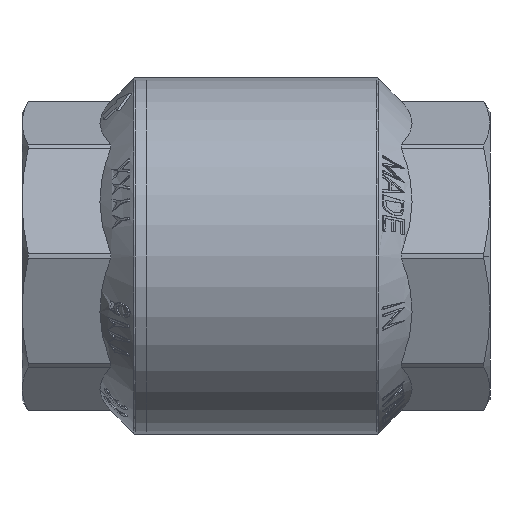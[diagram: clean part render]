
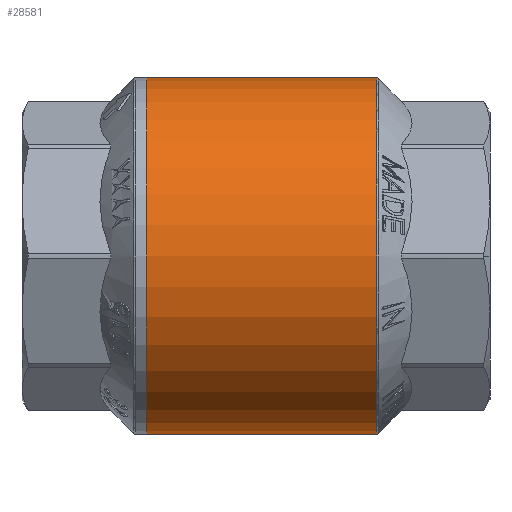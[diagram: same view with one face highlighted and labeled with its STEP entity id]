
A CAD part, front view. The second image highlights one B-rep face of the part: STEP entity #28581.
In plain terms, the highlighted cylindrical face has radius 41.5 mm (diameter 83 mm), a partial arc.
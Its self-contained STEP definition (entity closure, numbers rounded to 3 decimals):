
#33 = VECTOR ( 'NONE', #3463, 1000. ) ;
#69 = VECTOR ( 'NONE', #3678, 1000. ) ;
#2857 = CARTESIAN_POINT ( 'NONE',  ( -0.354, 0., -41.5 ) ) ;
#2875 = CARTESIAN_POINT ( 'NONE',  ( -0.354, 0., 41.5 ) ) ;
#2889 = CARTESIAN_POINT ( 'NONE',  ( -54., 0., -41.5 ) ) ;
#2895 = CARTESIAN_POINT ( 'NONE',  ( -54., 0., 41.5 ) ) ;
#3462 = CARTESIAN_POINT ( 'NONE',  ( -15.088, 0., -41.5 ) ) ;
#3463 = DIRECTION ( 'NONE',  ( -1., 0., 0. ) ) ;
#3677 = CARTESIAN_POINT ( 'NONE',  ( -15.088, 0., 41.5 ) ) ;
#3678 = DIRECTION ( 'NONE',  ( -1., 0., 0. ) ) ;
#6796 = ORIENTED_EDGE ( 'NONE', *, *, #28114, .T. ) ;
#7181 = ORIENTED_EDGE ( 'NONE', *, *, #28376, .T. ) ;
#7246 = ORIENTED_EDGE ( 'NONE', *, *, #24769, .T. ) ;
#7247 = ORIENTED_EDGE ( 'NONE', *, *, #28354, .F. ) ;
#8158 = AXIS2_PLACEMENT_3D ( 'NONE', #13690, #13691, #13692 ) ;
#11117 = CARTESIAN_POINT ( 'NONE',  ( -0.354, 0., 0. ) ) ;
#11118 = DIRECTION ( 'NONE',  ( -1., 0., 0. ) ) ;
#11119 = DIRECTION ( 'NONE',  ( 0., 0., 1. ) ) ;
#12640 = DIRECTION ( 'NONE',  ( 0., 0., 1. ) ) ;
#12643 = DIRECTION ( 'NONE',  ( 1., 0., 0. ) ) ;
#12644 = CARTESIAN_POINT ( 'NONE',  ( -54., 0., 0. ) ) ;
#13690 = CARTESIAN_POINT ( 'NONE',  ( -15.088, 0., 0. ) ) ;
#13691 = DIRECTION ( 'NONE',  ( -1., 0., 0. ) ) ;
#13692 = DIRECTION ( 'NONE',  ( 0., 0., 1. ) ) ;
#18416 = EDGE_LOOP ( 'NONE', ( #7247, #6796, #7181, #7246 ) ) ;
#18656 = VERTEX_POINT ( 'NONE', #2889 ) ;
#18669 = VERTEX_POINT ( 'NONE', #2895 ) ;
#18735 = VERTEX_POINT ( 'NONE', #2857 ) ;
#18778 = VERTEX_POINT ( 'NONE', #2875 ) ;
#24380 = AXIS2_PLACEMENT_3D ( 'NONE', #12644, #12643, #12640 ) ;
#24468 = CIRCLE ( 'NONE', #24380, 41.5 ) ;
#24769 = EDGE_CURVE ( 'NONE', #18669, #18656, #24468, .T. ) ;
#26073 = CYLINDRICAL_SURFACE ( 'NONE', #8158, 41.5 ) ;
#26081 = FACE_OUTER_BOUND ( 'NONE', #18416, .T. ) ;
#26166 = LINE ( 'NONE', #3462, #33 ) ;
#26281 = LINE ( 'NONE', #3677, #69 ) ;
#27546 = AXIS2_PLACEMENT_3D ( 'NONE', #11117, #11118, #11119 ) ;
#27551 = CIRCLE ( 'NONE', #27546, 41.5 ) ;
#28114 = EDGE_CURVE ( 'NONE', #18735, #18778, #27551, .T. ) ;
#28354 = EDGE_CURVE ( 'NONE', #18735, #18656, #26166, .T. ) ;
#28376 = EDGE_CURVE ( 'NONE', #18778, #18669, #26281, .T. ) ;
#28581 = ADVANCED_FACE ( 'NONE', ( #26081 ), #26073, .T. ) ;
